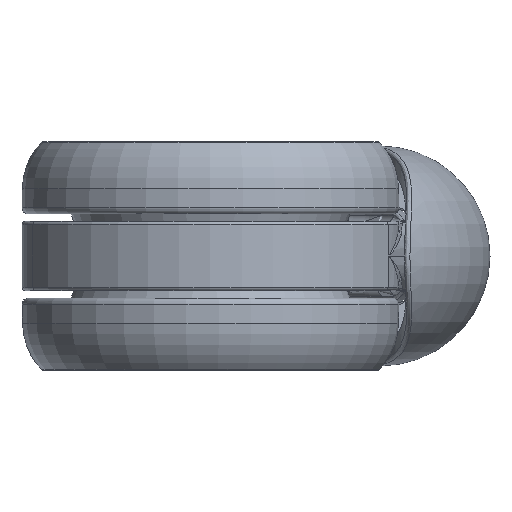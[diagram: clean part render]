
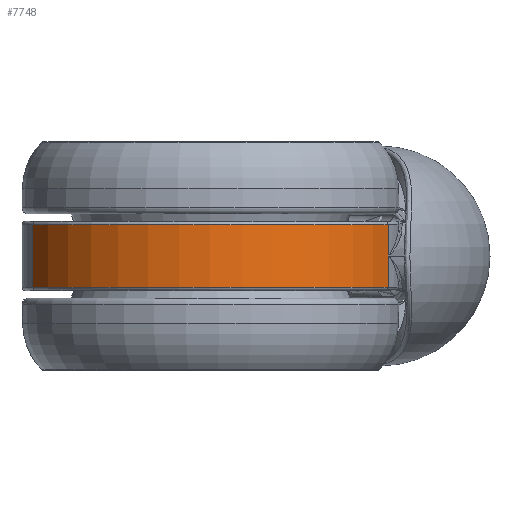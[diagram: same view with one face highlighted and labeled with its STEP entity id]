
A CAD part, front view. The second image highlights one B-rep face of the part: STEP entity #7748.
In plain terms, the highlighted cylindrical face has radius 30.924 mm (diameter 61.847 mm), a partial arc.
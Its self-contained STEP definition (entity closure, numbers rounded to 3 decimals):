
#347 = ORIENTED_EDGE ( 'NONE', *, *, #25306, .T. ) ;
#631 = AXIS2_PLACEMENT_3D ( 'NONE', #16557, #22413, #4295 ) ;
#1229 = DIRECTION ( 'NONE',  ( 0., 0., -1. ) ) ;
#1479 = CARTESIAN_POINT ( 'NONE',  ( 0., 3.924, 5. ) ) ;
#2976 = DIRECTION ( 'NONE',  ( 0., 0., -1. ) ) ;
#3753 = CIRCLE ( 'NONE', #11388, 30.924 ) ;
#4224 = VECTOR ( 'NONE', #9028, 1000. ) ;
#4295 = DIRECTION ( 'NONE',  ( -1., 0., 0. ) ) ;
#4742 = CARTESIAN_POINT ( 'NONE',  ( 28.273, -8.602, 5. ) ) ;
#5437 = DIRECTION ( 'NONE',  ( -1., 0., 0. ) ) ;
#6217 = ORIENTED_EDGE ( 'NONE', *, *, #12748, .T. ) ;
#7689 = AXIS2_PLACEMENT_3D ( 'NONE', #15571, #23708, #5437 ) ;
#7748 = ADVANCED_FACE ( 'NONE', ( #25690 ), #17709, .T. ) ;
#9028 = DIRECTION ( 'NONE',  ( 0., 0., 1. ) ) ;
#9118 = CIRCLE ( 'NONE', #631, 30.924 ) ;
#9348 = DIRECTION ( 'NONE',  ( 1., 0., 0. ) ) ;
#9574 = CARTESIAN_POINT ( 'NONE',  ( -28.273, -8.602, -5. ) ) ;
#10923 = CARTESIAN_POINT ( 'NONE',  ( 28.273, -8.602, -5. ) ) ;
#10964 = VERTEX_POINT ( 'NONE', #10923 ) ;
#11388 = AXIS2_PLACEMENT_3D ( 'NONE', #1479, #1229, #9348 ) ;
#12748 = EDGE_CURVE ( 'NONE', #12889, #10964, #9118, .T. ) ;
#12889 = VERTEX_POINT ( 'NONE', #9574 ) ;
#14577 = LINE ( 'NONE', #25101, #22539 ) ;
#15571 = CARTESIAN_POINT ( 'NONE',  ( 0., 3.924, 12.5 ) ) ;
#16557 = CARTESIAN_POINT ( 'NONE',  ( 0., 3.924, -5. ) ) ;
#16911 = CARTESIAN_POINT ( 'NONE',  ( 28.273, -8.602, 12.5 ) ) ;
#17642 = EDGE_LOOP ( 'NONE', ( #347, #6217, #21567, #24506 ) ) ;
#17709 = CYLINDRICAL_SURFACE ( 'NONE', #7689, 30.924 ) ;
#20481 = EDGE_CURVE ( 'NONE', #21195, #22431, #3753, .T. ) ;
#21195 = VERTEX_POINT ( 'NONE', #4742 ) ;
#21505 = CARTESIAN_POINT ( 'NONE',  ( -28.273, -8.602, 5. ) ) ;
#21567 = ORIENTED_EDGE ( 'NONE', *, *, #21769, .T. ) ;
#21769 = EDGE_CURVE ( 'NONE', #10964, #21195, #25037, .T. ) ;
#22413 = DIRECTION ( 'NONE',  ( 0., 0., 1. ) ) ;
#22431 = VERTEX_POINT ( 'NONE', #21505 ) ;
#22539 = VECTOR ( 'NONE', #2976, 1000. ) ;
#23708 = DIRECTION ( 'NONE',  ( 0., 0., -1. ) ) ;
#24506 = ORIENTED_EDGE ( 'NONE', *, *, #20481, .T. ) ;
#25037 = LINE ( 'NONE', #16911, #4224 ) ;
#25101 = CARTESIAN_POINT ( 'NONE',  ( -28.273, -8.602, 12.5 ) ) ;
#25306 = EDGE_CURVE ( 'NONE', #22431, #12889, #14577, .T. ) ;
#25690 = FACE_OUTER_BOUND ( 'NONE', #17642, .T. ) ;
